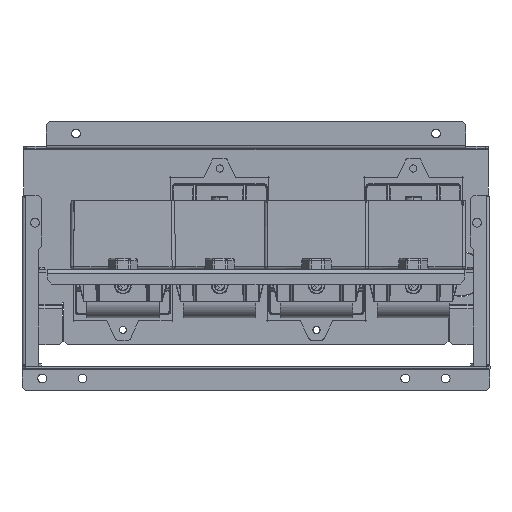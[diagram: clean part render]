
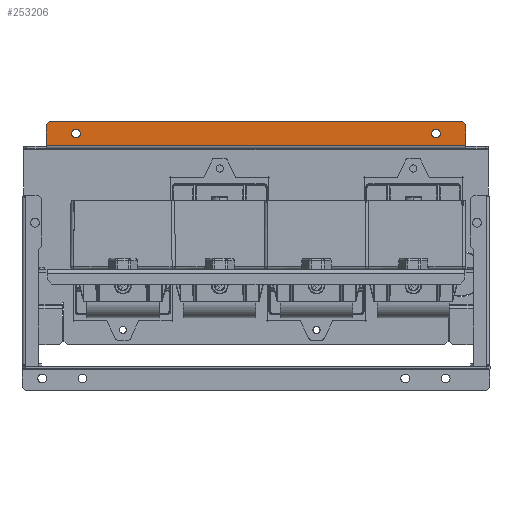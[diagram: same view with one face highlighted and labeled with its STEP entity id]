
A CAD part, left-side view. The second image highlights one B-rep face of the part: STEP entity #253206.
In plain terms, the highlighted planar face has unit normal (-1, 0, 0) as drawn and (0, 0, -1) by its records, which use the part's own axes.
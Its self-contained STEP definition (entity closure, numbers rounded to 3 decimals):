
#251396=CARTESIAN_POINT(' ',(-76.,-205.,-12.5));
#251397=VERTEX_POINT(' ',#251396);
#251411=CARTESIAN_POINT(' ',(-63.1,-205.,-12.5));
#251416=DIRECTION(' ',(-1.,0.,0.));
#251421=VECTOR(' ',#251416,1.);
#251426=LINE('',#251411,#251421);
#251431=CARTESIAN_POINT(' ',(-63.1,-205.,-12.5));
#251432=VERTEX_POINT(' ',#251431);
#251436=EDGE_CURVE(' ',#251432,#251397,#251426,.T.);
#251536=CARTESIAN_POINT(' ',(-63.1,-205.,-12.5));
#251541=DIRECTION(' ',(0.,1.,0.));
#251546=VECTOR(' ',#251541,1.);
#251551=LINE('',#251536,#251546);
#251556=CARTESIAN_POINT(' ',(-63.1,55.,-12.5));
#251557=VERTEX_POINT(' ',#251556);
#251561=EDGE_CURVE(' ',#251432,#251557,#251551,.T.);
#252786=CARTESIAN_POINT(' ',(-76.,-205.,-12.5));
#252791=DIRECTION(' ',(-0.707,0.707,0.));
#252796=VECTOR(' ',#252791,1.);
#252801=LINE('',#252786,#252796);
#252806=CARTESIAN_POINT(' ',(-78.,-203.,-12.5));
#252807=VERTEX_POINT(' ',#252806);
#252811=EDGE_CURVE(' ',#251397,#252807,#252801,.T.);
#252876=DIRECTION(' ',(0.,0.,-1.));
#252881=CARTESIAN_POINT(' ',(-78.,-205.,-12.5));
#252886=DIRECTION(' ',(0.,1.,0.));
#252891=AXIS2_PLACEMENT_3D(' ',#252881,#252876,#252886);
#252896=PLANE('NONE',#252891);
#252901=CARTESIAN_POINT(' ',(-78.,-203.,-12.5));
#252906=DIRECTION(' ',(0.,1.,0.));
#252911=VECTOR(' ',#252906,1.);
#252916=LINE('',#252901,#252911);
#252921=CARTESIAN_POINT(' ',(-78.,53.,-12.5));
#252922=VERTEX_POINT(' ',#252921);
#252926=EDGE_CURVE(' ',#252807,#252922,#252916,.T.);
#252931=ORIENTED_EDGE(' ',*,*,#252926,.T.);
#252936=CARTESIAN_POINT(' ',(-78.,53.,-12.5));
#252941=DIRECTION(' ',(0.707,0.707,0.));
#252946=VECTOR(' ',#252941,1.);
#252951=LINE('',#252936,#252946);
#252956=CARTESIAN_POINT(' ',(-76.,55.,-12.5));
#252957=VERTEX_POINT(' ',#252956);
#252961=EDGE_CURVE(' ',#252922,#252957,#252951,.T.);
#252966=ORIENTED_EDGE(' ',*,*,#252961,.T.);
#252971=CARTESIAN_POINT(' ',(-76.,55.,-12.5));
#252976=DIRECTION(' ',(1.,0.,0.));
#252981=VECTOR(' ',#252976,1.);
#252986=LINE('',#252971,#252981);
#252991=EDGE_CURVE(' ',#252957,#251557,#252986,.T.);
#252996=ORIENTED_EDGE(' ',*,*,#252991,.T.);
#253001=ORIENTED_EDGE(' ',*,*,#251561,.F.);
#253006=ORIENTED_EDGE(' ',*,*,#251436,.T.);
#253011=ORIENTED_EDGE(' ',*,*,#252811,.T.);
#253016=EDGE_LOOP(' ',(#252931,#252966,#252996,#253001,#253006,#253011));
#253021=FACE_OUTER_BOUND(' ',#253016,.T.);
#253026=CARTESIAN_POINT(' ',(-70.5,-186.5,-12.5));
#253031=DIRECTION(' ',(0.,0.,1.));
#253036=DIRECTION(' ',(1.,0.,0.));
#253041=AXIS2_PLACEMENT_3D(' ',#253026,#253031,#253036);
#253046=CIRCLE('',#253041,2.75);
#253051=CARTESIAN_POINT(' ',(-67.75,-186.5,-12.5));
#253052=VERTEX_POINT(' ',#253051);
#253056=CARTESIAN_POINT(' ',(-73.25,-186.5,-12.5));
#253057=VERTEX_POINT(' ',#253056);
#253061=EDGE_CURVE(' ',#253052,#253057,#253046,.T.);
#253066=ORIENTED_EDGE(' ',*,*,#253061,.T.);
#253071=CARTESIAN_POINT(' ',(-70.5,-186.5,-12.5));
#253076=DIRECTION(' ',(0.,0.,1.));
#253081=DIRECTION(' ',(-1.,0.,0.));
#253086=AXIS2_PLACEMENT_3D(' ',#253071,#253076,#253081);
#253091=CIRCLE('',#253086,2.75);
#253096=EDGE_CURVE(' ',#253057,#253052,#253091,.T.);
#253101=ORIENTED_EDGE(' ',*,*,#253096,.T.);
#253106=EDGE_LOOP(' ',(#253066,#253101));
#253111=FACE_BOUND(' ',#253106,.T.);
#253116=CARTESIAN_POINT(' ',(-70.5,36.5,-12.5));
#253121=DIRECTION(' ',(0.,0.,1.));
#253126=DIRECTION(' ',(1.,0.,0.));
#253131=AXIS2_PLACEMENT_3D(' ',#253116,#253121,#253126);
#253136=CIRCLE('',#253131,2.75);
#253141=CARTESIAN_POINT(' ',(-67.75,36.5,-12.5));
#253142=VERTEX_POINT(' ',#253141);
#253146=CARTESIAN_POINT(' ',(-73.25,36.5,-12.5));
#253147=VERTEX_POINT(' ',#253146);
#253151=EDGE_CURVE(' ',#253142,#253147,#253136,.T.);
#253156=ORIENTED_EDGE(' ',*,*,#253151,.T.);
#253161=CARTESIAN_POINT(' ',(-70.5,36.5,-12.5));
#253166=DIRECTION(' ',(0.,0.,1.));
#253171=DIRECTION(' ',(-1.,0.,0.));
#253176=AXIS2_PLACEMENT_3D(' ',#253161,#253166,#253171);
#253181=CIRCLE('',#253176,2.75);
#253186=EDGE_CURVE(' ',#253147,#253142,#253181,.T.);
#253191=ORIENTED_EDGE(' ',*,*,#253186,.T.);
#253196=EDGE_LOOP(' ',(#253156,#253191));
#253201=FACE_BOUND(' ',#253196,.T.);
#253206=ADVANCED_FACE('NONE',(#253021,#253111,#253201),#252896,.T.);
